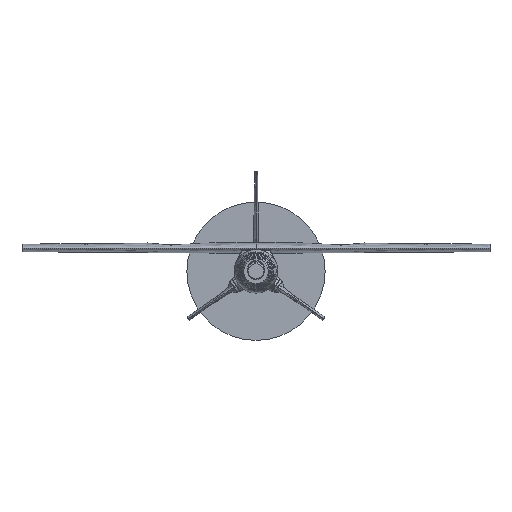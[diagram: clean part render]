
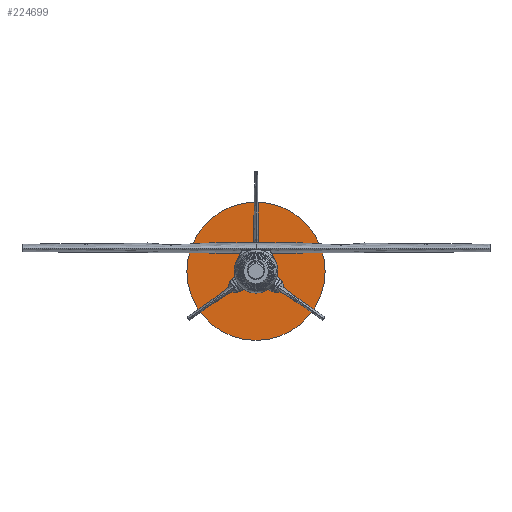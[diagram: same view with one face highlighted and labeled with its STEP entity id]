
A CAD part, left-side view. The second image highlights one B-rep face of the part: STEP entity #224699.
In plain terms, the highlighted planar face has unit normal (-1, 0, 0).
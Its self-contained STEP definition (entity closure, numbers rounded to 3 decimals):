
#224621 = CYLINDRICAL_SURFACE('',#224622,63.5);
#224622 = AXIS2_PLACEMENT_3D('',#224623,#224624,#224625);
#224623 = CARTESIAN_POINT('',(450.85,0.,0.));
#224624 = DIRECTION('',(1.,0.,0.));
#224625 = DIRECTION('',(-0.,0.,1.));
#224646 = VERTEX_POINT('',#224647);
#224647 = CARTESIAN_POINT('',(450.85,0.,63.5));
#224668 = EDGE_CURVE('',#224646,#224646,#224669,.T.);
#224669 = SURFACE_CURVE('',#224670,(#224675,#224682),.PCURVE_S1.);
#224670 = CIRCLE('',#224671,63.5);
#224671 = AXIS2_PLACEMENT_3D('',#224672,#224673,#224674);
#224672 = CARTESIAN_POINT('',(450.85,0.,0.));
#224673 = DIRECTION('',(1.,0.,0.));
#224674 = DIRECTION('',(-0.,0.,1.));
#224675 = PCURVE('',#224621,#224676);
#224676 = DEFINITIONAL_REPRESENTATION('',(#224677),#224681);
#224677 = LINE('',#224678,#224679);
#224678 = CARTESIAN_POINT('',(0.,0.));
#224679 = VECTOR('',#224680,1.);
#224680 = DIRECTION('',(1.,0.));
#224681 = ( GEOMETRIC_REPRESENTATION_CONTEXT(2) 
PARAMETRIC_REPRESENTATION_CONTEXT() REPRESENTATION_CONTEXT('2D SPACE',''
  ) );
#224682 = PCURVE('',#224683,#224688);
#224683 = PLANE('',#224684);
#224684 = AXIS2_PLACEMENT_3D('',#224685,#224686,#224687);
#224685 = CARTESIAN_POINT('',(450.85,0.,0.));
#224686 = DIRECTION('',(1.,0.,0.));
#224687 = DIRECTION('',(-0.,0.,1.));
#224688 = DEFINITIONAL_REPRESENTATION('',(#224689),#224693);
#224689 = CIRCLE('',#224690,63.5);
#224690 = AXIS2_PLACEMENT_2D('',#224691,#224692);
#224691 = CARTESIAN_POINT('',(0.,0.));
#224692 = DIRECTION('',(1.,0.));
#224693 = ( GEOMETRIC_REPRESENTATION_CONTEXT(2) 
PARAMETRIC_REPRESENTATION_CONTEXT() REPRESENTATION_CONTEXT('2D SPACE',''
  ) );
#224699 = ADVANCED_FACE('',(#224700),#224683,.F.);
#224700 = FACE_BOUND('',#224701,.T.);
#224701 = EDGE_LOOP('',(#224702));
#224702 = ORIENTED_EDGE('',*,*,#224668,.F.);
